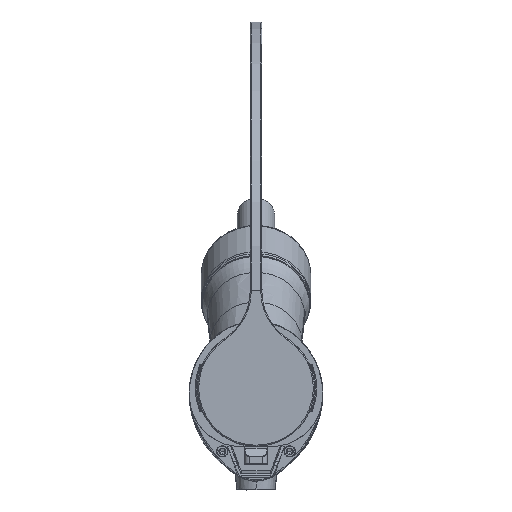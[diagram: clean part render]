
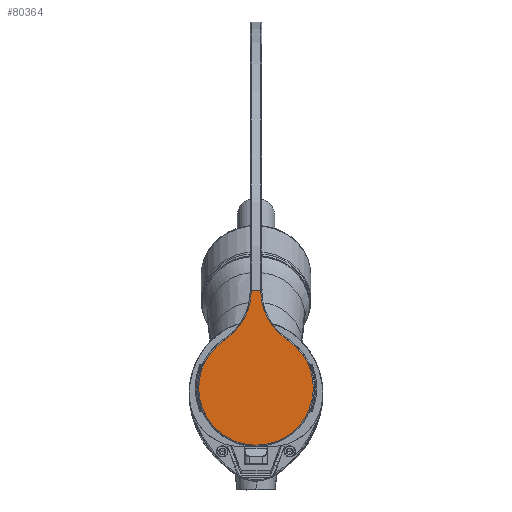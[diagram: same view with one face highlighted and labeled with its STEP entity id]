
A CAD part, top view. The second image highlights one B-rep face of the part: STEP entity #80364.
In plain terms, the highlighted planar face has unit normal (0, 0, 1).
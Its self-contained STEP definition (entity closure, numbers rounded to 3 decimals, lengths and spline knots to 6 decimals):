
#70167=CARTESIAN_POINT('',(0.0275,0.041878,
0.032502));
#70168=DIRECTION('',(0.,0.,-1.));
#70169=DIRECTION('',(-0.549,-0.836,
0.));
#70170=AXIS2_PLACEMENT_3D('',#70167,#70168,#70169);
#70175=CARTESIAN_POINT('',(0.,0.,0.032502));
#70176=DIRECTION('',(0.,0.,1.));
#70177=DIRECTION('',(0.314,-0.949,0.));
#70178=AXIS2_PLACEMENT_3D('',#70175,#70176,#70177);
#70183=CARTESIAN_POINT('',(0.,0.,0.032502));
#70184=DIRECTION('',(0.,0.,1.));
#70185=DIRECTION('',(-0.549,0.836,0.));
#70186=AXIS2_PLACEMENT_3D('',#70183,#70184,#70185);
#70191=CARTESIAN_POINT('',(-0.0275,0.041878,
0.032502));
#70192=DIRECTION('',(0.,0.,-1.));
#70193=DIRECTION('',(1.,0.,0.));
#70194=AXIS2_PLACEMENT_3D('',#70191,#70192,#70193);
#70206=DIRECTION('',(1.,0.,0.));
#70207=VECTOR('',#70206,0.004);
#70208=CARTESIAN_POINT('',(-0.002,0.041878,
0.032502));
#70209=LINE('',#70208,#70207);
#79379=CARTESIAN_POINT('',(0.013503,0.020563,
0.032502));
#79380=CARTESIAN_POINT('',(0.002,0.041878,
0.032502));
#79381=VERTEX_POINT('',#79379);
#79382=VERTEX_POINT('',#79380);
#79383=CARTESIAN_POINT('',(0.007735,-0.023352,
0.032502));
#79384=VERTEX_POINT('',#79383);
#79385=CARTESIAN_POINT('',(-0.013503,0.020563,
0.032502));
#79386=VERTEX_POINT('',#79385);
#79387=CARTESIAN_POINT('',(-0.002,0.041878,
0.032502));
#79388=VERTEX_POINT('',#79387);
#80347=CARTESIAN_POINT('',(0.,0.004116,
0.032502));
#80348=DIRECTION('',(0.,0.,-1.));
#80349=DIRECTION('',(1.,0.,0.));
#80350=AXIS2_PLACEMENT_3D('',#80347,#80348,#80349);
#80351=PLANE('',#80350);
#80353=ORIENTED_EDGE('',*,*,#80352,.T.);
#80355=ORIENTED_EDGE('',*,*,#80354,.F.);
#80357=ORIENTED_EDGE('',*,*,#80356,.F.);
#80359=ORIENTED_EDGE('',*,*,#80358,.F.);
#80361=ORIENTED_EDGE('',*,*,#80360,.F.);
#80362=EDGE_LOOP('',(#80353,#80355,#80357,#80359,#80361));
#80363=FACE_OUTER_BOUND('',#80362,.F.);
#70171=CIRCLE('',#70170,0.0255);
#70179=CIRCLE('',#70178,0.0246);
#70187=CIRCLE('',#70186,0.0246);
#70195=CIRCLE('',#70194,0.0255);
#80352=EDGE_CURVE('',#79388,#79382,#70209,.T.);
#80354=EDGE_CURVE('',#79381,#79382,#70171,.T.);
#80356=EDGE_CURVE('',#79384,#79381,#70179,.T.);
#80358=EDGE_CURVE('',#79386,#79384,#70187,.T.);
#80360=EDGE_CURVE('',#79388,#79386,#70195,.T.);
#80364=ADVANCED_FACE('',(#80363),#80351,.F.);
